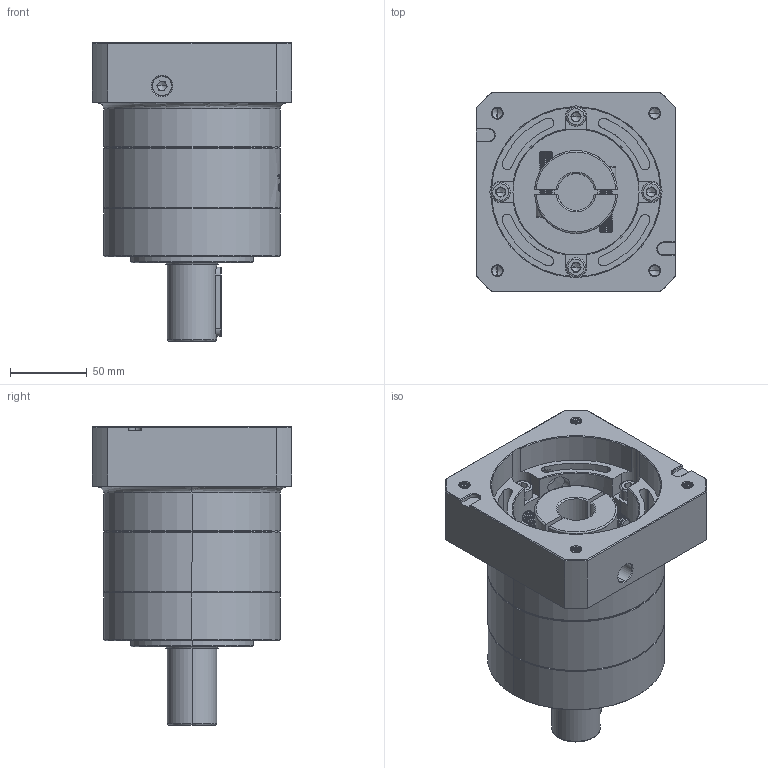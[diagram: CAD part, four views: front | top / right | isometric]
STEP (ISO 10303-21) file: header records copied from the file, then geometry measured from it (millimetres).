
FILE_DESCRIPTION (( 'STEP AP214' ), '1' );
FILE_NAME ('ZE120A-D32-L1-24-110-145-M8.step', '2023-03-09T06:27:34', ( '' ), ( '' ), 'SwSTEP 2.0', 'SolidWorks 2016', '' );
FILE_SCHEMA (( 'AUTOMOTIVE_DESIGN' ));
Length unit declared in the file: millimetre
Products named in the file (1): ZE120A-D32-L1-24-110-145-M8
Bounding box: 130 x 130 x 194 mm (x, y, z)
Volume: 1410713.8 mm3; surface area: 177808.7 mm2
Topology: 6 solids, 6 shells, 2087 faces, 5527 edges, 3531 vertices
Faces by surface type: plane 862, cylinder 547, bspline 335, cone 323, torus 20
Entity records: 122058 total; most frequent: CARTESIAN_POINT 51987, ORIENTED_EDGE 10978, DIRECTION 8299, EDGE_CURVE 5489, VERTEX_POINT 3531, VECTOR 2877, LINE 2877, AXIS2_PLACEMENT_3D 2711
